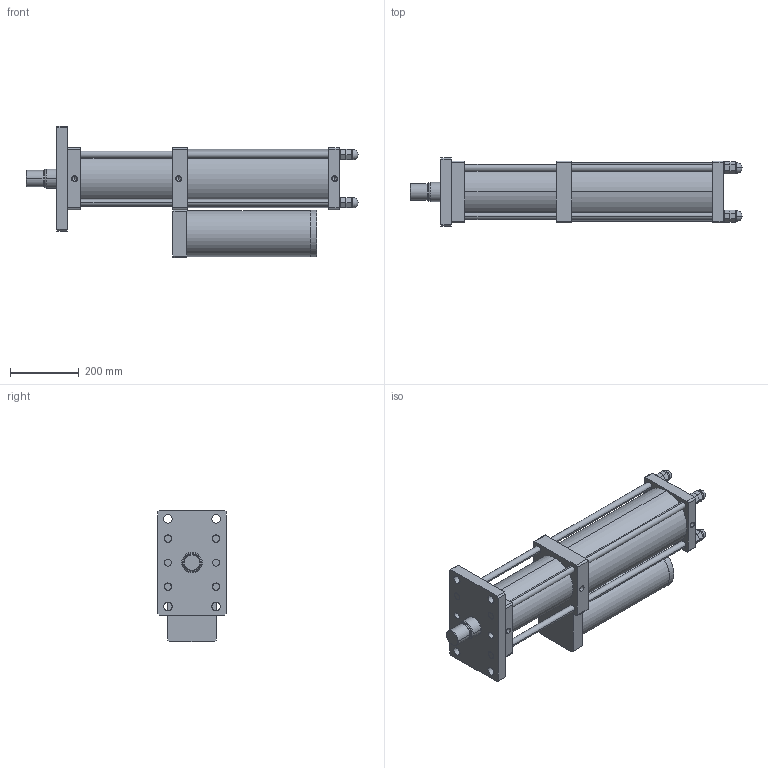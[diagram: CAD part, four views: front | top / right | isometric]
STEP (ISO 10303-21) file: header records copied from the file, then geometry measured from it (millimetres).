
FILE_DESCRIPTION (( 'STEP AP203' ), '1' );
FILE_NAME ('CPT-125-200-20-20T.STEP', '2016-03-12T02:04:25', ( 'WIN' ), ( '' ), 'SwSTEP 2.0', 'SolidWorks 2014', '' );
FILE_SCHEMA (( 'CONFIG_CONTROL_DESIGN' ));
Length unit declared in the file: millimetre
Products named in the file (1): CPT-125-200-20-20T
Bounding box: 966 x 200 x 382.5 mm (x, y, z)
Volume: 21867524.3 mm3; surface area: 1454362.2 mm2
Topology: 17 solids, 17 shells, 318 faces, 726 edges, 454 vertices
Faces by surface type: plane 154, cylinder 122, cone 30, sphere 8, torus 4
Entity records: 8889 total; most frequent: DIRECTION 1638, CARTESIAN_POINT 1467, ORIENTED_EDGE 1404, EDGE_CURVE 702, AXIS2_PLACEMENT_3D 617, VERTEX_POINT 446, VECTOR 404, LINE 404
